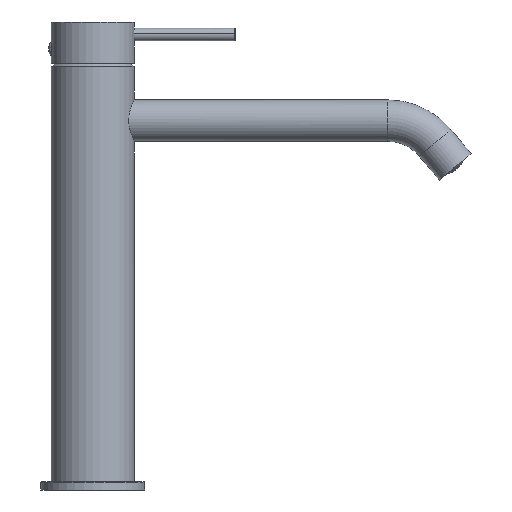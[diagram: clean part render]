
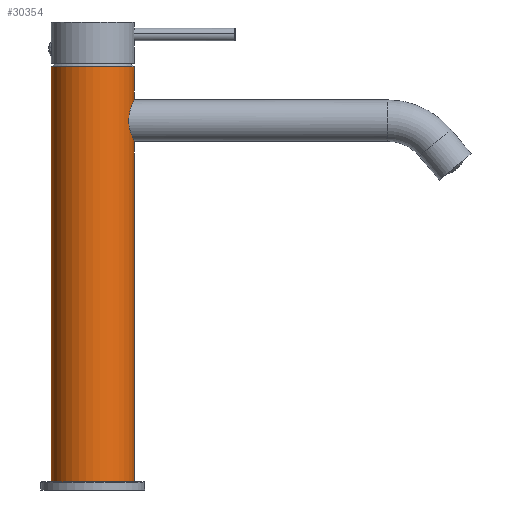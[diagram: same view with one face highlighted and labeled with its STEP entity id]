
A CAD part, front view. The second image highlights one B-rep face of the part: STEP entity #30354.
In plain terms, the highlighted cylindrical face has radius 20 mm (diameter 40 mm), a partial arc.
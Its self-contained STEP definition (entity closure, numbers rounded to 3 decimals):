
#740 = LINE ( 'NONE', #10676, #12858 ) ;
#1057 = CARTESIAN_POINT ( 'NONE',  ( 19.997, 0., 115.503 ) ) ;
#2074 = CARTESIAN_POINT ( 'NONE',  ( 19.759, -3.082, 125.556 ) ) ;
#3023 = CARTESIAN_POINT ( 'NONE',  ( 19.49, -4.498, 117.818 ) ) ;
#3966 = VECTOR ( 'NONE', #21873, 1000. ) ;
#3976 = CARTESIAN_POINT ( 'NONE',  ( 19.679, -3.586, 116.802 ) ) ;
#4126 = VERTEX_POINT ( 'NONE', #62212 ) ;
#4290 = CARTESIAN_POINT ( 'NONE',  ( 19.381, -4.939, 118.579 ) ) ;
#4420 = CYLINDRICAL_SURFACE ( 'NONE', #59505, 20. ) ;
#5349 = ORIENTED_EDGE ( 'NONE', *, *, #20107, .F. ) ;
#6026 = DIRECTION ( 'NONE',  ( -1., 0., 0. ) ) ;
#7570 = EDGE_LOOP ( 'NONE', ( #22347, #36585, #61022, #40793, #45548, #5349 ) ) ;
#7845 = CARTESIAN_POINT ( 'NONE',  ( 19.427, -4.758, 118.237 ) ) ;
#8596 = CARTESIAN_POINT ( 'NONE',  ( 0., 0., 0. ) ) ;
#9109 = CARTESIAN_POINT ( 'NONE',  ( 19.448, -4.666, 123.913 ) ) ;
#10450 = CARTESIAN_POINT ( 'NONE',  ( 0., 0., -53.4 ) ) ;
#10676 = CARTESIAN_POINT ( 'NONE',  ( -20., 0., 0. ) ) ;
#11069 = CARTESIAN_POINT ( 'NONE',  ( 19.668, -3.627, 125.138 ) ) ;
#11295 = CARTESIAN_POINT ( 'NONE',  ( 20., 0., 0. ) ) ;
#11386 = CARTESIAN_POINT ( 'NONE',  ( 19.822, -2.658, 125.832 ) ) ;
#11959 = CIRCLE ( 'NONE', #19148, 20. ) ;
#12858 = VECTOR ( 'NONE', #20954, 1000. ) ;
#12971 = CARTESIAN_POINT ( 'NONE',  ( 19.997, 0., 115.503 ) ) ;
#13175 = CIRCLE ( 'NONE', #21386, 20. ) ;
#13287 = CARTESIAN_POINT ( 'NONE',  ( 19.379, -4.945, 118.592 ) ) ;
#13601 = CARTESIAN_POINT ( 'NONE',  ( 19.376, -4.957, 118.617 ) ) ;
#13929 = CARTESIAN_POINT ( 'NONE',  ( 19.958, -1.447, 115.643 ) ) ;
#16003 = EDGE_CURVE ( 'NONE', #32193, #51283, #740, .T. ) ;
#16167 = VECTOR ( 'NONE', #56434, 1000. ) ;
#16212 = CARTESIAN_POINT ( 'NONE',  ( 19.522, -4.369, 124.36 ) ) ;
#16743 = LINE ( 'NONE', #11295, #3966 ) ;
#16842 = CARTESIAN_POINT ( 'NONE',  ( 19.746, -3.166, 125.498 ) ) ;
#17487 = CARTESIAN_POINT ( 'NONE',  ( 19.312, -5.203, 122.791 ) ) ;
#17801 = CARTESIAN_POINT ( 'NONE',  ( 19.863, -2.338, 116.022 ) ) ;
#18439 = CARTESIAN_POINT ( 'NONE',  ( 19.875, -2.233, 115.973 ) ) ;
#19148 = AXIS2_PLACEMENT_3D ( 'NONE', #29510, #25926, #6026 ) ;
#20107 = EDGE_CURVE ( 'NONE', #40045, #40987, #38966, .T. ) ;
#20635 = EDGE_CURVE ( 'NONE', #4126, #40045, #36911, .T. ) ;
#20954 = DIRECTION ( 'NONE',  ( 0., 0., -1. ) ) ;
#21386 = AXIS2_PLACEMENT_3D ( 'NONE', #10450, #61031, #55898 ) ;
#21873 = DIRECTION ( 'NONE',  ( 0., 0., -1. ) ) ;
#22109 = EDGE_CURVE ( 'NONE', #23463, #51283, #13175, .T. ) ;
#22208 = EDGE_CURVE ( 'NONE', #40987, #23463, #16743, .T. ) ;
#22347 = ORIENTED_EDGE ( 'NONE', *, *, #20635, .F. ) ;
#22616 = CARTESIAN_POINT ( 'NONE',  ( 19.425, -4.756, 123.763 ) ) ;
#22923 = CARTESIAN_POINT ( 'NONE',  ( 19.363, -5.009, 118.726 ) ) ;
#23463 = VERTEX_POINT ( 'NONE', #57530 ) ;
#23571 = CARTESIAN_POINT ( 'NONE',  ( 19.994, -0.719, 115.5 ) ) ;
#25926 = DIRECTION ( 'NONE',  ( 0., 0., -1. ) ) ;
#26795 = CARTESIAN_POINT ( 'NONE',  ( 19.719, -3.333, 125.376 ) ) ;
#27442 = CARTESIAN_POINT ( 'NONE',  ( 19.414, -4.8, 123.687 ) ) ;
#29510 = CARTESIAN_POINT ( 'NONE',  ( 0., 0., 147. ) ) ;
#29743 = CARTESIAN_POINT ( 'NONE',  ( -20., 0., 147. ) ) ;
#30354 = ADVANCED_FACE ( 'NONE', ( #52543 ), #4420, .T. ) ;
#30989 = CARTESIAN_POINT ( 'NONE',  ( 19.46, -4.618, 123.989 ) ) ;
#32193 = VERTEX_POINT ( 'NONE', #29743 ) ;
#32252 = CARTESIAN_POINT ( 'NONE',  ( 19.362, -5.003, 123.292 ) ) ;
#32581 = CARTESIAN_POINT ( 'NONE',  ( 19.734, -3.257, 116.554 ) ) ;
#32895 = CARTESIAN_POINT ( 'NONE',  ( 19.82, -2.679, 116.194 ) ) ;
#33528 = CARTESIAN_POINT ( 'NONE',  ( 19.382, -4.926, 123.453 ) ) ;
#35479 = CARTESIAN_POINT ( 'NONE',  ( 19.863, -2.309, 126.006 ) ) ;
#36585 = ORIENTED_EDGE ( 'NONE', *, *, #39033, .T. ) ;
#36911 = LINE ( 'NONE', #48020, #16167 ) ;
#37067 = CARTESIAN_POINT ( 'NONE',  ( 19.285, -5.31, 122.443 ) ) ;
#37377 = CARTESIAN_POINT ( 'NONE',  ( 19.882, -2.169, 115.946 ) ) ;
#37704 = CARTESIAN_POINT ( 'NONE',  ( 19.409, -4.829, 118.364 ) ) ;
#38022 = CARTESIAN_POINT ( 'NONE',  ( 19.86, -2.365, 116.034 ) ) ;
#38966 = B_SPLINE_CURVE_WITH_KNOTS ( 'NONE', 3,
 ( #45729, #46039, #51154, #35479, #11386, #2074, #16842, #26795, #55011, #11069, #40611, #60140, #16212, #30989, #9109, #22616, #27442, #33528, #32252, #57220, #17487, #37067, #48265, #43146, #47943, #53056, #56585, #46988, #22923, #13601, #13287, #62336, #4290, #51792, #52113, #56906, #37704, #7845, #3023, #42187, #3976, #32581, #42504, #32895, #52417, #61710, #38022, #41876, #17801, #57534, #18439, #37377, #13929, #23571, #12971 ),
 .UNSPECIFIED., .F., .F.,
 ( 4, 2, 2, 2, 2, 2, 2, 2, 2, 2, 2, 2, 2, 2, 1, 1, 2, 2, 1, 2, 2, 2, 2, 2, 2, 2, 1, 1, 2, 4 ),
 ( 0.57, 0.633, 0.664, 0.672, 0.68, 0.695, 0.726, 0.734, 0.742, 0.758, 0.773, 0.789, 0.82, 0.882, 0.89, 0.892, 0.893, 0.893, 0.894, 0.898, 0.913, 0.945, 0.976, 0.991, 0.999, 1., 1.001, 1.003, 1.007, 1.069 ),
 .UNSPECIFIED. ) ;
#39033 = EDGE_CURVE ( 'NONE', #4126, #32193, #11959, .T. ) ;
#40045 = VERTEX_POINT ( 'NONE', #61886 ) ;
#40611 = CARTESIAN_POINT ( 'NONE',  ( 19.644, -3.76, 125.018 ) ) ;
#40793 = ORIENTED_EDGE ( 'NONE', *, *, #22109, .F. ) ;
#40987 = VERTEX_POINT ( 'NONE', #1057 ) ;
#41876 = CARTESIAN_POINT ( 'NONE',  ( 19.86, -2.359, 116.031 ) ) ;
#42187 = CARTESIAN_POINT ( 'NONE',  ( 19.545, -4.26, 117.488 ) ) ;
#42504 = CARTESIAN_POINT ( 'NONE',  ( 19.8, -2.816, 116.273 ) ) ;
#43146 = CARTESIAN_POINT ( 'NONE',  ( 19.247, -5.461, 121.742 ) ) ;
#43270 = DIRECTION ( 'NONE',  ( 0., 0., -1. ) ) ;
#45548 = ORIENTED_EDGE ( 'NONE', *, *, #22208, .F. ) ;
#45729 = CARTESIAN_POINT ( 'NONE',  ( 19.997, 0., 126.497 ) ) ;
#46039 = CARTESIAN_POINT ( 'NONE',  ( 19.995, -0.599, 126.5 ) ) ;
#46988 = CARTESIAN_POINT ( 'NONE',  ( 19.351, -5.055, 118.83 ) ) ;
#47943 = CARTESIAN_POINT ( 'NONE',  ( 19.237, -5.498, 121.386 ) ) ;
#48020 = CARTESIAN_POINT ( 'NONE',  ( 20., 0., 0. ) ) ;
#48265 = CARTESIAN_POINT ( 'NONE',  ( 19.274, -5.356, 122.263 ) ) ;
#51154 = CARTESIAN_POINT ( 'NONE',  ( 19.962, -1.273, 126.402 ) ) ;
#51283 = VERTEX_POINT ( 'NONE', #62372 ) ;
#51792 = CARTESIAN_POINT ( 'NONE',  ( 19.382, -4.934, 118.57 ) ) ;
#52113 = CARTESIAN_POINT ( 'NONE',  ( 19.386, -4.918, 118.538 ) ) ;
#52417 = CARTESIAN_POINT ( 'NONE',  ( 19.844, -2.489, 116.095 ) ) ;
#52543 = FACE_OUTER_BOUND ( 'NONE', #7570, .T. ) ;
#53056 = CARTESIAN_POINT ( 'NONE',  ( 19.237, -5.504, 120.313 ) ) ;
#53489 = DIRECTION ( 'NONE',  ( -1., 0., 0. ) ) ;
#55011 = CARTESIAN_POINT ( 'NONE',  ( 19.705, -3.42, 125.308 ) ) ;
#55898 = DIRECTION ( 'NONE',  ( -1., 0., 0. ) ) ;
#56434 = DIRECTION ( 'NONE',  ( 0., 0., -1. ) ) ;
#56585 = CARTESIAN_POINT ( 'NONE',  ( 19.272, -5.366, 119.59 ) ) ;
#56906 = CARTESIAN_POINT ( 'NONE',  ( 19.391, -4.901, 118.504 ) ) ;
#57220 = CARTESIAN_POINT ( 'NONE',  ( 19.328, -5.141, 122.961 ) ) ;
#57530 = CARTESIAN_POINT ( 'NONE',  ( 20., 0., -53.4 ) ) ;
#57534 = CARTESIAN_POINT ( 'NONE',  ( 19.867, -2.306, 116.007 ) ) ;
#59505 = AXIS2_PLACEMENT_3D ( 'NONE', #8596, #43270, #53489 ) ;
#60140 = CARTESIAN_POINT ( 'NONE',  ( 19.57, -4.14, 124.638 ) ) ;
#61022 = ORIENTED_EDGE ( 'NONE', *, *, #16003, .T. ) ;
#61031 = DIRECTION ( 'NONE',  ( 0., 0., -1. ) ) ;
#61710 = CARTESIAN_POINT ( 'NONE',  ( 19.852, -2.429, 116.065 ) ) ;
#61886 = CARTESIAN_POINT ( 'NONE',  ( 19.997, 0., 126.497 ) ) ;
#62212 = CARTESIAN_POINT ( 'NONE',  ( 20., 0., 147. ) ) ;
#62336 = CARTESIAN_POINT ( 'NONE',  ( 19.381, -4.94, 118.581 ) ) ;
#62372 = CARTESIAN_POINT ( 'NONE',  ( -20., 0., -53.4 ) ) ;
